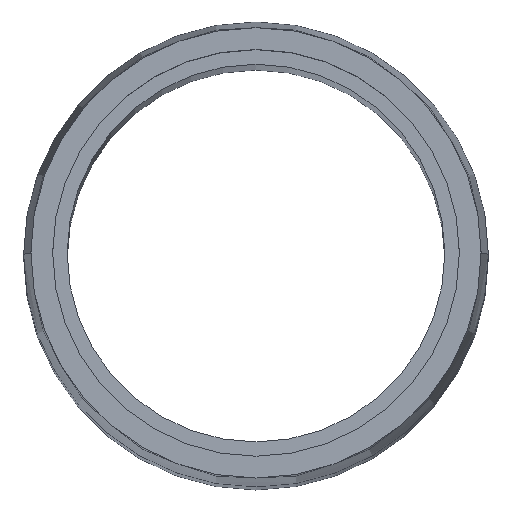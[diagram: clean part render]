
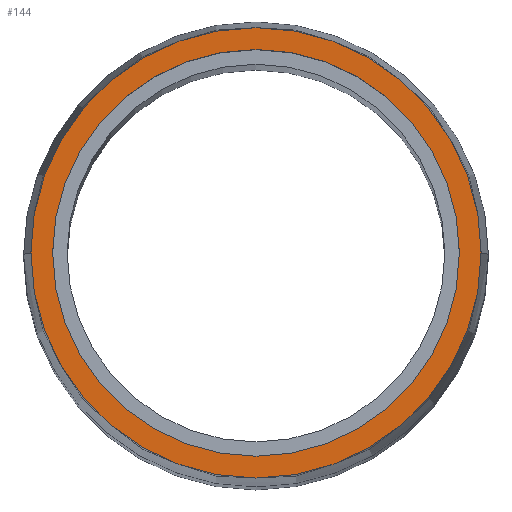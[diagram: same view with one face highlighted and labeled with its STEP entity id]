
A CAD part, top view. The second image highlights one B-rep face of the part: STEP entity #144.
In plain terms, the highlighted planar face has unit normal (0, 0, 1).
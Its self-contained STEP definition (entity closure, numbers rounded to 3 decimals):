
#12 = CARTESIAN_POINT ( 'NONE',  ( 14., 0., 124.5 ) ) ;
#19 = CIRCLE ( 'NONE', #424, 14. ) ;
#24 = VERTEX_POINT ( 'NONE', #94 ) ;
#34 = CARTESIAN_POINT ( 'NONE',  ( 0., 0., 124.5 ) ) ;
#40 = VERTEX_POINT ( 'NONE', #135 ) ;
#62 = CIRCLE ( 'NONE', #367, 15.5 ) ;
#66 = DIRECTION ( 'NONE',  ( 0., 0., 1. ) ) ;
#70 = CARTESIAN_POINT ( 'NONE',  ( 0., 0., 124.5 ) ) ;
#81 = ORIENTED_EDGE ( 'NONE', *, *, #387, .F. ) ;
#83 = EDGE_CURVE ( 'NONE', #416, #24, #19, .T. ) ;
#94 = CARTESIAN_POINT ( 'NONE',  ( -14., 0., 124.5 ) ) ;
#112 = ORIENTED_EDGE ( 'NONE', *, *, #379, .T. ) ;
#122 = CARTESIAN_POINT ( 'NONE',  ( 0., 0., 124.5 ) ) ;
#123 = DIRECTION ( 'NONE',  ( 1., 0., 0. ) ) ;
#135 = CARTESIAN_POINT ( 'NONE',  ( -15.5, 0., 124.5 ) ) ;
#144 = ADVANCED_FACE ( 'NONE', ( #263, #429 ), #285, .T. ) ;
#152 = DIRECTION ( 'NONE',  ( 1., 0., 0. ) ) ;
#158 = CARTESIAN_POINT ( 'NONE',  ( 0., 0., 124.5 ) ) ;
#160 = DIRECTION ( 'NONE',  ( 0., 0., 1. ) ) ;
#161 = DIRECTION ( 'NONE',  ( 0., 0., 1. ) ) ;
#208 = EDGE_CURVE ( 'NONE', #40, #212, #359, .T. ) ;
#212 = VERTEX_POINT ( 'NONE', #366 ) ;
#216 = CARTESIAN_POINT ( 'NONE',  ( 0., 0., 124.5 ) ) ;
#234 = DIRECTION ( 'NONE',  ( 1., 0., 0. ) ) ;
#249 = DIRECTION ( 'NONE',  ( 1., 0., 0. ) ) ;
#255 = DIRECTION ( 'NONE',  ( 0., 0., 1. ) ) ;
#263 = FACE_BOUND ( 'NONE', #316, .T. ) ;
#274 = AXIS2_PLACEMENT_3D ( 'NONE', #158, #160, #234 ) ;
#285 = PLANE ( 'NONE',  #408 ) ;
#309 = ORIENTED_EDGE ( 'NONE', *, *, #83, .F. ) ;
#316 = EDGE_LOOP ( 'NONE', ( #309, #81 ) ) ;
#356 = DIRECTION ( 'NONE',  ( 1., 0., 0. ) ) ;
#359 = CIRCLE ( 'NONE', #473, 15.5 ) ;
#366 = CARTESIAN_POINT ( 'NONE',  ( 15.5, 0., 124.5 ) ) ;
#367 = AXIS2_PLACEMENT_3D ( 'NONE', #122, #161, #123 ) ;
#379 = EDGE_CURVE ( 'NONE', #212, #40, #62, .T. ) ;
#387 = EDGE_CURVE ( 'NONE', #24, #416, #440, .T. ) ;
#388 = ORIENTED_EDGE ( 'NONE', *, *, #208, .T. ) ;
#408 = AXIS2_PLACEMENT_3D ( 'NONE', #70, #66, #356 ) ;
#416 = VERTEX_POINT ( 'NONE', #12 ) ;
#424 = AXIS2_PLACEMENT_3D ( 'NONE', #34, #431, #249 ) ;
#429 = FACE_OUTER_BOUND ( 'NONE', #434, .T. ) ;
#431 = DIRECTION ( 'NONE',  ( 0., 0., 1. ) ) ;
#434 = EDGE_LOOP ( 'NONE', ( #388, #112 ) ) ;
#440 = CIRCLE ( 'NONE', #274, 14. ) ;
#473 = AXIS2_PLACEMENT_3D ( 'NONE', #216, #255, #152 ) ;
